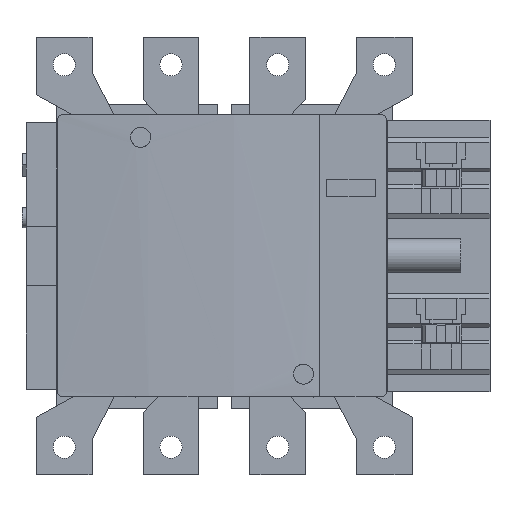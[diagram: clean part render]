
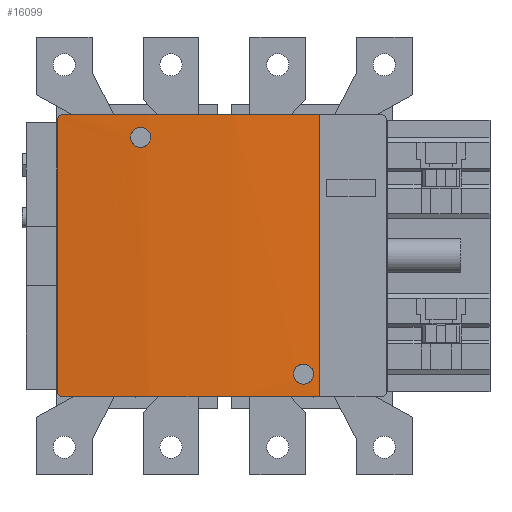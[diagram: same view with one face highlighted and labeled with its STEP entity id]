
A CAD part, top view. The second image highlights one B-rep face of the part: STEP entity #16099.
In plain terms, the highlighted cylindrical face has radius 600 mm (diameter 1200 mm), a partial arc.
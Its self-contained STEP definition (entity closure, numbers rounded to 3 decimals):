
#3992=CARTESIAN_POINT('',(18.,159.5,178.));
#3993=CARTESIAN_POINT('',(18.,159.687,178.));
#3994=CARTESIAN_POINT('',(18.042,160.061,178.004));
#3995=CARTESIAN_POINT('',(18.229,160.595,178.023));
#3996=CARTESIAN_POINT('',(18.53,161.074,178.052));
#3997=CARTESIAN_POINT('',(18.93,161.472,178.091));
#3998=CARTESIAN_POINT('',(19.408,161.772,178.138));
#3999=CARTESIAN_POINT('',(19.94,161.958,178.189));
#4000=CARTESIAN_POINT('',(20.313,162.,178.224));
#4001=CARTESIAN_POINT('',(20.5,162.,178.242));
#4007=CARTESIAN_POINT('',(50.875,151.75,180.339));
#4008=CARTESIAN_POINT('',(50.875,152.185,180.339));
#4009=CARTESIAN_POINT('',(50.995,153.019,180.344));
#4010=CARTESIAN_POINT('',(51.531,154.209,180.367));
#4011=CARTESIAN_POINT('',(52.385,155.194,180.403));
#4012=CARTESIAN_POINT('',(53.468,155.895,180.447));
#4013=CARTESIAN_POINT('',(54.731,156.266,180.495));
#4014=CARTESIAN_POINT('',(56.015,156.267,180.541));
#4015=CARTESIAN_POINT('',(57.281,155.895,180.584));
#4016=CARTESIAN_POINT('',(58.362,155.197,180.619));
#4017=CARTESIAN_POINT('',(59.22,154.208,180.645));
#4018=CARTESIAN_POINT('',(59.754,153.019,180.66));
#4019=CARTESIAN_POINT('',(59.875,152.185,180.663));
#4020=CARTESIAN_POINT('',(59.875,151.75,180.663));
#4022=CARTESIAN_POINT('',(59.875,151.75,180.663));
#4023=CARTESIAN_POINT('',(59.875,151.315,180.663));
#4024=CARTESIAN_POINT('',(59.755,150.481,180.66));
#4025=CARTESIAN_POINT('',(59.218,149.29,180.644));
#4026=CARTESIAN_POINT('',(58.364,148.305,180.619));
#4027=CARTESIAN_POINT('',(57.281,147.605,180.584));
#4028=CARTESIAN_POINT('',(56.019,147.234,180.541));
#4029=CARTESIAN_POINT('',(54.734,147.233,180.495));
#4030=CARTESIAN_POINT('',(53.469,147.605,180.447));
#4031=CARTESIAN_POINT('',(52.388,148.304,180.403));
#4032=CARTESIAN_POINT('',(51.53,149.292,180.367));
#4033=CARTESIAN_POINT('',(50.996,150.481,180.344));
#4034=CARTESIAN_POINT('',(50.875,151.315,180.339));
#4035=CARTESIAN_POINT('',(50.875,151.75,180.339));
#4037=CARTESIAN_POINT('',(124.125,45.25,179.054));
#4038=CARTESIAN_POINT('',(124.125,45.684,179.054));
#4039=CARTESIAN_POINT('',(124.245,46.517,179.045));
#4040=CARTESIAN_POINT('',(124.78,47.708,179.003));
#4041=CARTESIAN_POINT('',(125.634,48.693,178.934));
#4042=CARTESIAN_POINT('',(126.717,49.394,178.845));
#4043=CARTESIAN_POINT('',(127.98,49.766,178.739));
#4044=CARTESIAN_POINT('',(129.267,49.767,178.627));
#4045=CARTESIAN_POINT('',(130.534,49.394,178.515));
#4046=CARTESIAN_POINT('',(131.615,48.694,178.417));
#4047=CARTESIAN_POINT('',(132.472,47.705,178.338));
#4048=CARTESIAN_POINT('',(133.005,46.517,178.288));
#4049=CARTESIAN_POINT('',(133.125,45.684,178.277));
#4050=CARTESIAN_POINT('',(133.125,45.25,178.277));
#4052=CARTESIAN_POINT('',(133.125,45.25,178.277));
#4053=CARTESIAN_POINT('',(133.125,44.816,178.277));
#4054=CARTESIAN_POINT('',(133.005,43.983,178.288));
#4055=CARTESIAN_POINT('',(132.47,42.793,178.338));
#4056=CARTESIAN_POINT('',(131.617,41.808,178.417));
#4057=CARTESIAN_POINT('',(130.534,41.106,178.515));
#4058=CARTESIAN_POINT('',(129.271,40.734,178.627));
#4059=CARTESIAN_POINT('',(127.984,40.733,178.738));
#4060=CARTESIAN_POINT('',(126.717,41.106,178.845));
#4061=CARTESIAN_POINT('',(125.636,41.805,178.934));
#4062=CARTESIAN_POINT('',(124.779,42.794,179.003));
#4063=CARTESIAN_POINT('',(124.246,43.982,179.045));
#4064=CARTESIAN_POINT('',(124.125,44.815,179.054));
#4065=CARTESIAN_POINT('',(124.125,45.25,179.054));
#4067=CARTESIAN_POINT('',(77.,162.,-419.092));
#4068=DIRECTION('',(0.,-1.,0.));
#4069=DIRECTION('',(0.098,0.,0.995));
#4070=AXIS2_PLACEMENT_3D('',#4067,#4068,#4069);
#4106=CARTESIAN_POINT('',(77.,35.,-419.092));
#4107=DIRECTION('',(0.,-1.,0.));
#4108=DIRECTION('',(0.098,0.,0.995));
#4109=AXIS2_PLACEMENT_3D('',#4106,#4107,#4108);
#4119=DIRECTION('',(0.,1.,0.));
#4120=VECTOR('',#4119,127.);
#4121=CARTESIAN_POINT('',(136.,35.,178.));
#4122=LINE('',#4121,#4120);
#4171=CARTESIAN_POINT('',(20.5,35.,178.242));
#4172=CARTESIAN_POINT('',(20.313,35.,178.224));
#4173=CARTESIAN_POINT('',(19.94,35.042,178.189));
#4174=CARTESIAN_POINT('',(19.408,35.228,178.137));
#4175=CARTESIAN_POINT('',(18.929,35.528,178.091));
#4176=CARTESIAN_POINT('',(18.53,35.927,178.052));
#4177=CARTESIAN_POINT('',(18.229,36.406,178.023));
#4178=CARTESIAN_POINT('',(18.042,36.939,178.004));
#4179=CARTESIAN_POINT('',(18.,37.313,178.));
#4180=CARTESIAN_POINT('',(18.,37.5,178.));
#4186=DIRECTION('',(0.,-1.,0.));
#4187=VECTOR('',#4186,122.);
#4188=CARTESIAN_POINT('',(18.,159.5,178.));
#4189=LINE('',#4188,#4187);
#9201=VERTEX_POINT('',#3992);
#9202=VERTEX_POINT('',#4001);
#9203=CARTESIAN_POINT('',(18.,37.5,178.));
#9204=VERTEX_POINT('',#9203);
#9205=VERTEX_POINT('',#4171);
#9206=CARTESIAN_POINT('',(136.,162.,178.));
#9207=VERTEX_POINT('',#9206);
#9208=CARTESIAN_POINT('',(136.,35.,178.));
#9209=VERTEX_POINT('',#9208);
#9524=VERTEX_POINT('',#4007);
#9525=VERTEX_POINT('',#4020);
#9526=VERTEX_POINT('',#4037);
#9527=VERTEX_POINT('',#4050);
#16069=CARTESIAN_POINT('',(77.,35.,-419.092));
#16070=DIRECTION('',(0.,-1.,0.));
#16071=DIRECTION('',(1.,0.,0.));
#16072=AXIS2_PLACEMENT_3D('',#16069,#16070,#16071);
#16073=CYLINDRICAL_SURFACE('',#16072,600.);
#16074=ORIENTED_EDGE('',*,*,#16059,.T.);
#16076=ORIENTED_EDGE('',*,*,#16075,.F.);
#16078=ORIENTED_EDGE('',*,*,#16077,.F.);
#16080=ORIENTED_EDGE('',*,*,#16079,.T.);
#16082=ORIENTED_EDGE('',*,*,#16081,.T.);
#16084=ORIENTED_EDGE('',*,*,#16083,.F.);
#16085=EDGE_LOOP('',(#16074,#16076,#16078,#16080,#16082,#16084));
#16086=FACE_OUTER_BOUND('',#16085,.F.);
#16088=ORIENTED_EDGE('',*,*,#16087,.F.);
#16090=ORIENTED_EDGE('',*,*,#16089,.F.);
#16091=EDGE_LOOP('',(#16088,#16090));
#16092=FACE_BOUND('',#16091,.F.);
#16094=ORIENTED_EDGE('',*,*,#16093,.F.);
#16096=ORIENTED_EDGE('',*,*,#16095,.F.);
#16097=EDGE_LOOP('',(#16094,#16096));
#16098=FACE_BOUND('',#16097,.F.);
#16099=ADVANCED_FACE('',(#16086,#16092,#16098),#16073,.T.);
#4002=B_SPLINE_CURVE_WITH_KNOTS('',3,(#3992,#3993,#3994,#3995,#3996,#3997,#3998,
#3999,#4000,#4001),.UNSPECIFIED.,.F.,.F.,(4,1,1,1,1,1,1,4),(0.,
0.143,0.286,0.429,0.571,
0.714,0.857,1.),.UNSPECIFIED.);
#4021=B_SPLINE_CURVE_WITH_KNOTS('',3,(#4007,#4008,#4009,#4010,#4011,#4012,#4013,
#4014,#4015,#4016,#4017,#4018,#4019,#4020),.UNSPECIFIED.,.F.,.F.,(4,1,1,1,1,1,1,
1,1,1,1,4),(0.,0.091,0.182,0.273,
0.364,0.455,0.545,0.636,
0.727,0.818,0.909,1.),.UNSPECIFIED.);
#4036=B_SPLINE_CURVE_WITH_KNOTS('',3,(#4022,#4023,#4024,#4025,#4026,#4027,#4028,
#4029,#4030,#4031,#4032,#4033,#4034,#4035),.UNSPECIFIED.,.F.,.F.,(4,1,1,1,1,1,1,
1,1,1,1,4),(0.,0.091,0.182,0.273,
0.364,0.455,0.545,0.636,
0.727,0.818,0.909,1.),.UNSPECIFIED.);
#4051=B_SPLINE_CURVE_WITH_KNOTS('',3,(#4037,#4038,#4039,#4040,#4041,#4042,#4043,
#4044,#4045,#4046,#4047,#4048,#4049,#4050),.UNSPECIFIED.,.F.,.F.,(4,1,1,1,1,1,1,
1,1,1,1,4),(0.,0.091,0.182,0.273,
0.364,0.455,0.545,0.636,
0.727,0.818,0.909,1.),.UNSPECIFIED.);
#4066=B_SPLINE_CURVE_WITH_KNOTS('',3,(#4052,#4053,#4054,#4055,#4056,#4057,#4058,
#4059,#4060,#4061,#4062,#4063,#4064,#4065),.UNSPECIFIED.,.F.,.F.,(4,1,1,1,1,1,1,
1,1,1,1,4),(0.,0.091,0.182,0.273,
0.364,0.455,0.545,0.636,
0.727,0.818,0.909,1.),.UNSPECIFIED.);
#4071=CIRCLE('',#4070,600.);
#4110=CIRCLE('',#4109,600.);
#4181=B_SPLINE_CURVE_WITH_KNOTS('',3,(#4171,#4172,#4173,#4174,#4175,#4176,#4177,
#4178,#4179,#4180),.UNSPECIFIED.,.F.,.F.,(4,1,1,1,1,1,1,4),(0.,
0.143,0.286,0.429,0.571,
0.714,0.857,1.),.UNSPECIFIED.);
#16059=EDGE_CURVE('',#9201,#9202,#4002,.T.);
#16075=EDGE_CURVE('',#9207,#9202,#4071,.T.);
#16077=EDGE_CURVE('',#9209,#9207,#4122,.T.);
#16079=EDGE_CURVE('',#9209,#9205,#4110,.T.);
#16081=EDGE_CURVE('',#9205,#9204,#4181,.T.);
#16083=EDGE_CURVE('',#9201,#9204,#4189,.T.);
#16087=EDGE_CURVE('',#9524,#9525,#4021,.T.);
#16089=EDGE_CURVE('',#9525,#9524,#4036,.T.);
#16093=EDGE_CURVE('',#9526,#9527,#4051,.T.);
#16095=EDGE_CURVE('',#9527,#9526,#4066,.T.);
